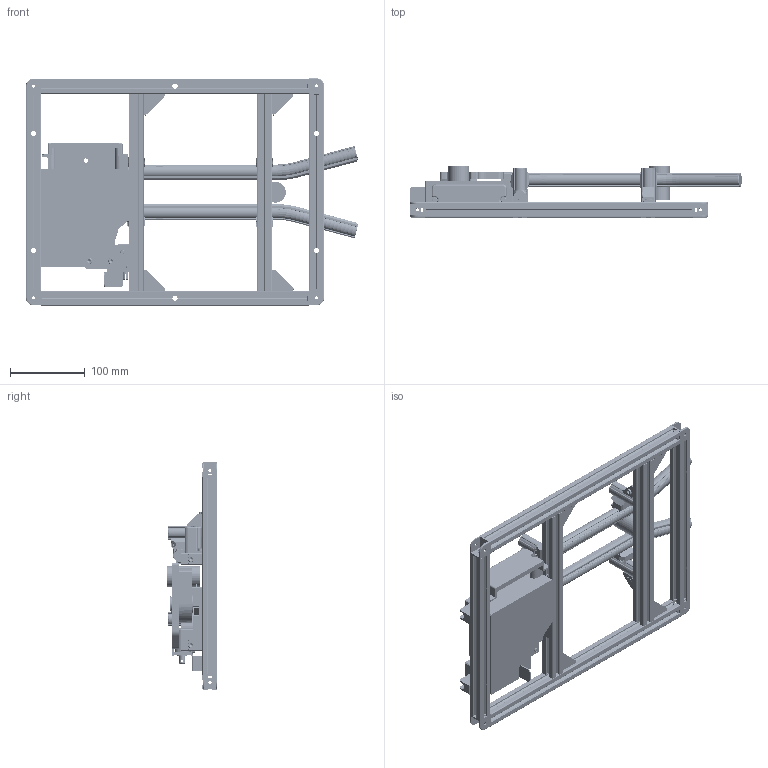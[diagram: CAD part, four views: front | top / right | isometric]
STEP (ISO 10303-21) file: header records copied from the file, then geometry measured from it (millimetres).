
FILE_DESCRIPTION (( 'STEP AP203' ), '1' );
FILE_NAME ('台車連結モジュールAS_モデル.STEP', '2025-08-01T01:21:07', ( '' ), ( '' ), 'SwSTEP 2.0', 'SolidWorks 2024', '' );
FILE_SCHEMA (( 'CONFIG_CONTROL_DESIGN' ));
Products named in the file (1): 台車連結モジュールAS_モデル
Bounding box: 443.5 x 68 x 304 mm (x, y, z)
Surface area: 626391.9 mm2 (no closed solid volume)
Topology: 0 solids, 100 shells, 5475 faces, 14614 edges, 9392 vertices
Faces by surface type: plane 2700, cylinder 2168, cone 284, bspline 281, torus 42
Entity records: 219856 total; most frequent: CARTESIAN_POINT 86072, ORIENTED_EDGE 29068, DIRECTION 26939, EDGE_CURVE 14554, VERTEX_POINT 9392, AXIS2_PLACEMENT_3D 9140, VECTOR 8659, LINE 8659
